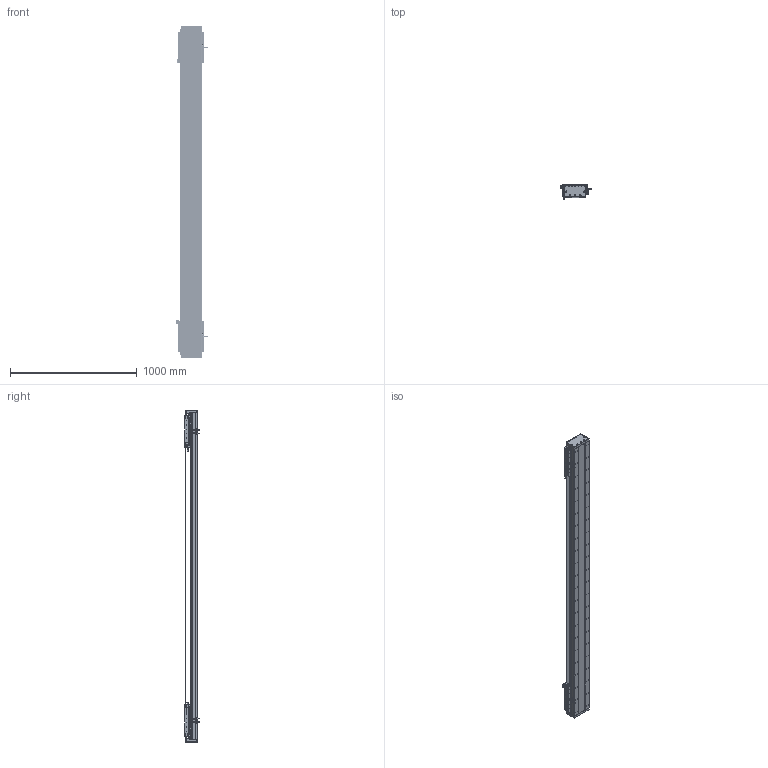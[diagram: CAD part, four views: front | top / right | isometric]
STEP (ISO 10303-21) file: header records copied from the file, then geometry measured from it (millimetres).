
FILE_DESCRIPTION (( 'STEP AP203' ), '1' );
FILE_NAME ('DA-C165-2-C3-T2000-C010-0.2 直线电机.STEP', '2023-06-13T09:20:02', ( '微软用户' ), ( '微软中国' ), 'SwSTEP 2.0', 'SolidWorks 2019', '' );
FILE_SCHEMA (( 'CONFIG_CONTROL_DESIGN' ));
Length unit declared in the file: millimetre
Products named in the file (22): 葩璃 DA95-GT-T-00^IU-CU165-L 菁釱絳寢_T; 复件 DA95-HXJ-00 缓冲橡胶^DA-C165-C3-T-C010-0.2-N 直线电机; 复件 DA165-GD-1860-002-00 钢带盖板^复件 CU165钢带组件_DA-C165-C3-T-C010-0.2-N 直线电机; 珨极趙賑雄怢啣C3-wf; 复件 DA126-GYP-ZJ-00 中间光电感应片^DA-C165-C3-T-C010-0.2-N 直线电机; 复件 CU165 底座^IU-CU165-L 底座导轨_L2580; 复件 CU165钢带组件^DA-C165-C3-T-C010-0.2-N 直线电机; 复件 DKW-HXJ-JY-00 缓冲橡胶^DA-C165-C3-T-C010-0.2-N 直线电机; 复件 DA165-GD-DG-H-00 端盖^复件 CU165钢带组件_DA-C165-C3-T-C010-0.2-N 直线电机; 葩璃 PM-T45^DA-C165-C3-T-C010-0.2-N 眻盄萇儂; 葩璃 CKM01-W075-TRL^DA-C165-C3-T-C010-0.2-N 眻盄萇儂; 复件 DA165-GYP-00 光电感应片^DA-C165-C3-T-C010-0.2-N 直线电机; 复件 DA165-GDYK-00 钢带压块^复件 CU165钢带组件_DA-C165-C3-T-C010-0.2-N 直线电机; 复件 XD-U-02L 磁栅尺^DA-C165-C3-T-C010-0.2-N 直线电机_T; 复件 DMA-010-0.2 读数头^DA-C165-C3-T-C010-0.2-N 直线电机; 复件 DA165-GDLK-00 钢带拉块^复件 CU165钢带组件_DA-C165-C3-T-C010-0.2-N 直线电机; DA-C165-2-C3-T2000-C010-0.2 眻盄萇儂; 复件 66338-1000-006-00 光电感应块^DA-C165-C3-T-C010-0.2-N 直线电机; 葩璃 PM-Y45^DA-C165-C3-T-C010-0.2-N 眻盄萇儂; 复件 六角薄螺母 M3^DA-C165-C3-T-C010-0.2-N 直线电机_GB_FASTENER_NUT_STNAB M3-C; IU-CU165-L 菁釱絳寢; 葩璃 CKM03-W075-C1C2-TP-3.0^DA-C165-C3-T-C010-0.2-N 眻盄萇儂
Assembly tree (45 placements, depth 3):
  DA-C165-2-C3-T2000-C010-0.2 眻盄萇儂
    IU-CU165-L 菁釱絳寢
      复件 CU165 底座^IU-CU165-L 底座导轨_L2580
      葩璃 DA95-GT-T-00^IU-CU165-L 菁釱絳寢_T  x4
    复件 XD-U-02L 磁栅尺^DA-C165-C3-T-C010-0.2-N 直线电机_T
    葩璃 PM-T45^DA-C165-C3-T-C010-0.2-N 眻盄萇儂  x4
    葩璃 CKM01-W075-TRL^DA-C165-C3-T-C010-0.2-N 眻盄萇儂
    复件 CU165钢带组件^DA-C165-C3-T-C010-0.2-N 直线电机
      复件 DA165-GD-DG-H-00 端盖^复件 CU165钢带组件_DA-C165-C3-T-C010-0.2-N 直线电机  x2
      复件 DA165-GDYK-00 钢带压块^复件 CU165钢带组件_DA-C165-C3-T-C010-0.2-N 直线电机  x2
      复件 DA165-GD-1860-002-00 钢带盖板^复件 CU165钢带组件_DA-C165-C3-T-C010-0.2-N 直线电机
      复件 DA165-GDLK-00 钢带拉块^复件 CU165钢带组件_DA-C165-C3-T-C010-0.2-N 直线电机  x2
    复件 DA95-HXJ-00 缓冲橡胶^DA-C165-C3-T-C010-0.2-N 直线电机  x4
    复件 DMA-010-0.2 读数头^DA-C165-C3-T-C010-0.2-N 直线电机  x2
    复件 DA165-GYP-00 光电感应片^DA-C165-C3-T-C010-0.2-N 直线电机  x2
    复件 66338-1000-006-00 光电感应块^DA-C165-C3-T-C010-0.2-N 直线电机
    葩璃 PM-Y45^DA-C165-C3-T-C010-0.2-N 眻盄萇儂
    复件 DA126-GYP-ZJ-00 中间光电感应片^DA-C165-C3-T-C010-0.2-N 直线电机
    葩璃 CKM03-W075-C1C2-TP-3.0^DA-C165-C3-T-C010-0.2-N 眻盄萇儂  x2
    复件 DKW-HXJ-JY-00 缓冲橡胶^DA-C165-C3-T-C010-0.2-N 直线电机  x2
    复件 六角薄螺母 M3^DA-C165-C3-T-C010-0.2-N 直线电机_GB_FASTENER_NUT_STNAB M3-C  x8
    珨极趙賑雄怢啣C3-wf  x2
Bounding box: 247.2 x 111.45 x 2620 mm (x, y, z)
Volume: 17230337.1 mm3; surface area: 4855409 mm2
Topology: 121 solids, 221 shells, 6565 faces, 17918 edges, 11148 vertices
Faces by surface type: cylinder 3478, plane 2019, cone 980, torus 80, sphere 8
Entity records: 148594 total; most frequent: CARTESIAN_POINT 39653, ORIENTED_EDGE 22420, DIRECTION 21966, EDGE_CURVE 11210, AXIS2_PLACEMENT_3D 8383, VERTEX_POINT 7302, EDGE_LOOP 5218, VECTOR 5200
